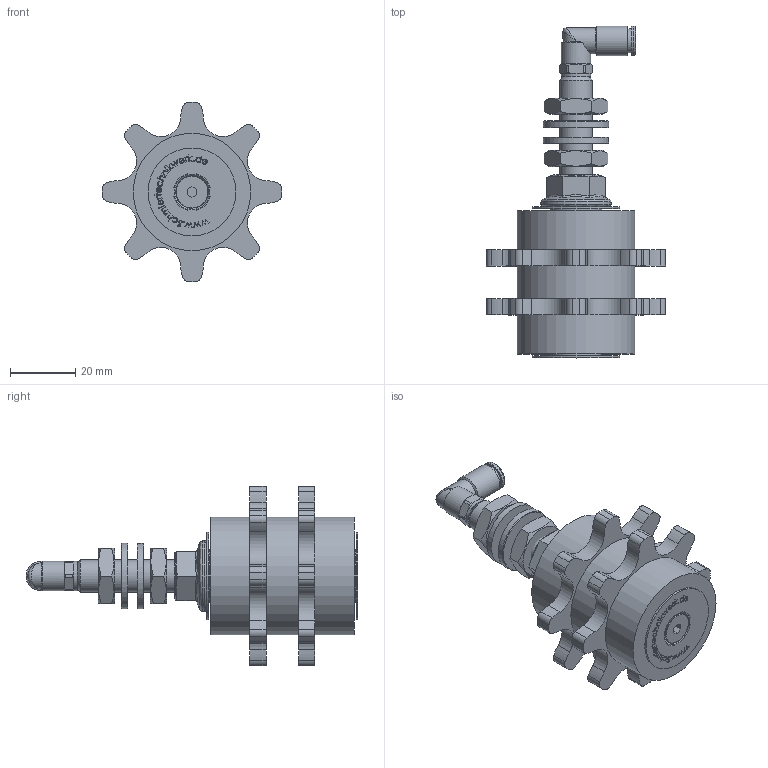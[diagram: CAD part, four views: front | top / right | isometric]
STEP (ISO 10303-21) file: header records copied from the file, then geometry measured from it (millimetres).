
FILE_DESCRIPTION (( 'STEP AP214' ), '1' );
FILE_NAME ('012_06_12B2_AZ.STEP', '2026-01-20T07:57:50', ( '' ), ( '' ), 'SwSTEP 2.0', 'SolidWorks 2022', '' );
FILE_SCHEMA (( 'AUTOMOTIVE_DESIGN' ));
Length unit declared in the file: millimetre
Products named in the file (9): 012_06_12B2_AZ; Mutter_M10; R202200-N2A_1; OR 4X1.5; 012_06_12B2_A_Kettenschmierritzel 12 B-2, Z08 - gerade; U_Scheibe_10.5; 214600-N2_1; Winkeleinsteck_4_M6; DR4_NEU_1
Assembly tree (10 placements, depth 3):
  012_06_12B2_AZ
    012_06_12B2_A_Kettenschmierritzel 12 B-2, Z08 - gerade
    Mutter_M10  x2
    U_Scheibe_10.5  x2
    Winkeleinsteck_4_M6
      OR 4X1.5
      214600-N2_1
      DR4_NEU_1
      R202200-N2A_1
Bounding box: 55 x 101.85 x 55 mm (x, y, z)
Volume: 4119.2 mm3; surface area: 22005.2 mm2
Topology: 8 solids, 34 shells, 368 faces, 1173 edges, 875 vertices
Faces by surface type: cylinder 183, plane 112, cone 57, bspline 16
Full cylindrical faces by diameter (mm): 3 x1, 4.1 x2, 4.2 x1, 4.6 x1, 4.917 x1, 5 x12, 6 x2, 6.4 x1, 6.8 x2, 7.3 x1, 7.4 x1, 7.6 x1, 7.85 x1, 7.9 x1, 8 x1, 8.5 x2, 9 x3, 9.1 x1, 10 x2, 10.5 x2, 12 x2, 12.1 x1, 14 x4, 14.08 x4, 16 x2, 20 x2, 21.6 x1, 27 x2, 36 x3
Entity records: 22579 total; most frequent: CARTESIAN_POINT 10912, DIRECTION 1771, ORIENTED_EDGE 1647, EDGE_CURVE 982, VERTEX_POINT 802, AXIS2_PLACEMENT_3D 716, EDGE_LOOP 516, FACE_OUTER_BOUND 414
